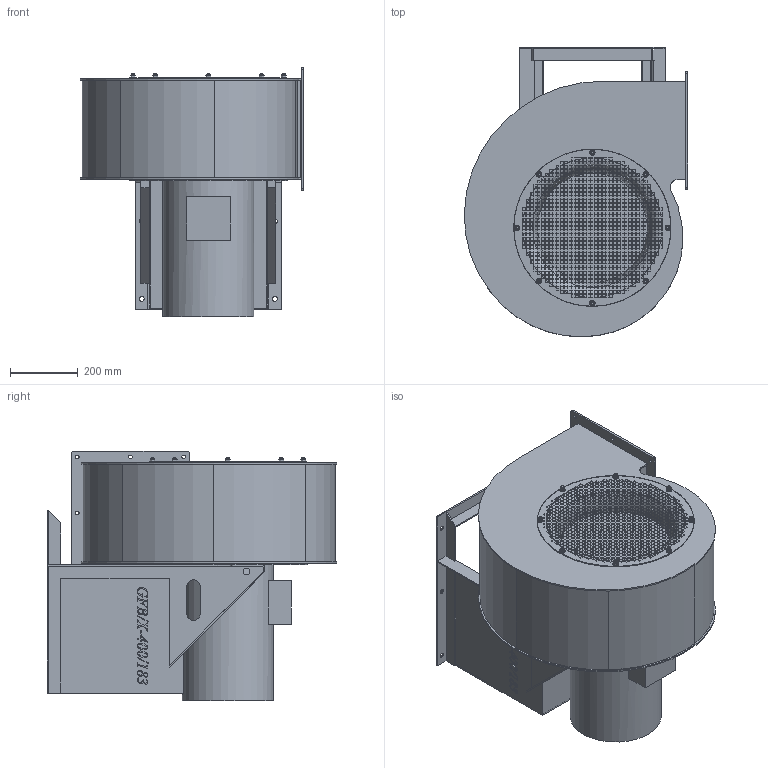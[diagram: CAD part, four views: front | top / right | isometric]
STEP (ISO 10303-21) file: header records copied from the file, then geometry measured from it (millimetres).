
FILE_DESCRIPTION(/* description */ (''),/* implementation_level */ '2;1');
FILE_NAME(/* name */ 'E:\Mariusz\Modele uproszczone\GFB\GFB_4_400_183 LG270 435030290\GFB_X_400_183 LG270 435030290\GFB_X_400_183 LG270 435030290.stp',/* time_stamp */ '2019-01-18T10:21:22+01:00',/* author */ ('M.Janczarek'),/* organization */ (''),/* preprocessor_version */ 'ST-DEVELOPER v16.13',/* originating_system */ 'Autodesk Inventor 2018',/* authorisation */ '');
FILE_SCHEMA (('AUTOMOTIVE_DESIGN { 1 0 10303 214 3 1 1 }'));
Products named in the file (1): GFB_X_400_183 LG270 435030290
Bounding box: 660.92 x 857.52 x 738 mm (x, y, z)
Volume: 138492443.5 mm3; surface area: 3552244.3 mm2
Topology: 1 solids, 1 shells, 5344 faces, 15938 edges, 10539 vertices
Faces by surface type: plane 4921, bspline 308, cylinder 89, cone 24, torus 2
Full cylindrical faces by diameter (mm): 8 x8, 11 x8, 11.6 x8, 14 x6, 16 x8, 20 x2, 270 x1, 325 x1, 464 x1, 465 x1, 470 x1
Entity records: 186424 total; most frequent: CARTESIAN_POINT 35957, ORIENTED_EDGE 31696, DIRECTION 25654, EDGE_CURVE 15848, LINE 14692, VECTOR 14692, VERTEX_POINT 10520, EDGE_LOOP 7614
